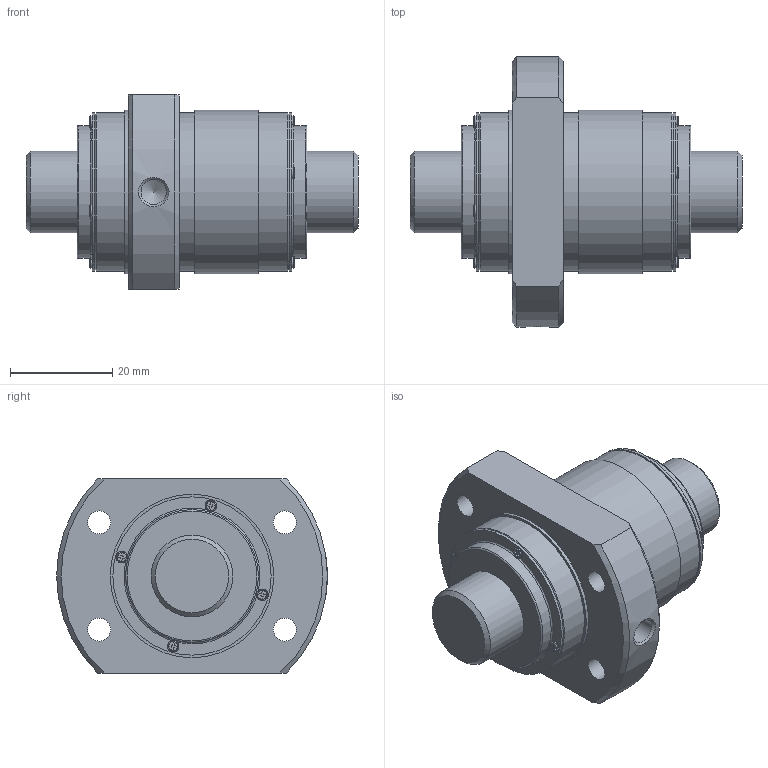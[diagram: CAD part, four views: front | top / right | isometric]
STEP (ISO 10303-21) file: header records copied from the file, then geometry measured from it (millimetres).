
FILE_DESCRIPTION(/* description */ ('STEP AP203'),/* implementation_level */ '2;1');
FILE_NAME(/* name */ 'BLK1616-3.6ZZ+65LC7T_000',/* time_stamp */ '2025-06-11T06:24:33+02:00',/* author */ ('License CC BY-ND 4.0'),/* organization */ ('CADENAS'),/* preprocessor_version */ 'ST-DEVELOPER v19.3',/* originating_system */ 'PARTsolutions',/* authorisation */ ' ');
FILE_SCHEMA (('CONFIG_CONTROL_DESIGN'));
Length unit declared in the file: millimetre
Products named in the file (3): BLK1616-3.6ZZ+65LC7T_000; BLK1616-3.60ZZ0 Shaft; BLK1616-3.6ZZ Nut
Assembly tree (2 placements, depth 2):
  BLK1616-3.6ZZ+65LC7T_000
    BLK1616-3.60ZZ0 Shaft
    BLK1616-3.6ZZ Nut
Bounding box: 65 x 53 x 38 mm (x, y, z)
Volume: 47083 mm3; surface area: 14753.3 mm2
Topology: 2 solids, 2 shells, 207 faces, 541 edges, 355 vertices
Faces by surface type: plane 127, cylinder 58, torus 12, cone 10
Full cylindrical faces by diameter (mm): 2.24 x8, 4.5 x4, 4.917 x1, 16 x2, 26 x2, 31 x5, 32 x2
Entity records: 6154 total; most frequent: CARTESIAN_POINT 1107, DIRECTION 1032, ORIENTED_EDGE 974, EDGE_CURVE 487, AXIS2_PLACEMENT_3D 352, VERTEX_POINT 344, LINE 328, VECTOR 328
